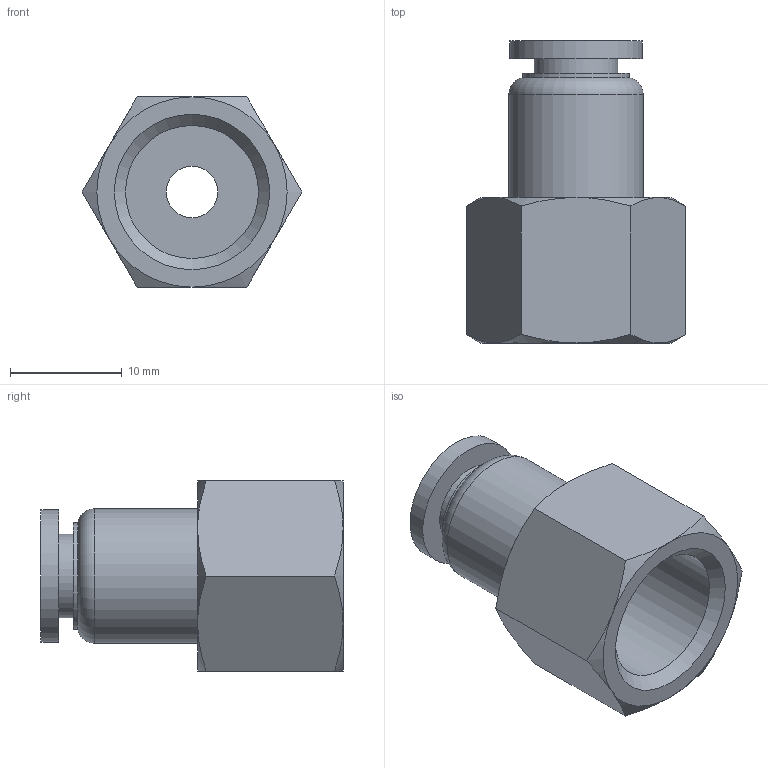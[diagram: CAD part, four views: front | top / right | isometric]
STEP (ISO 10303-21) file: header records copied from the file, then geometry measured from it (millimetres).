
FILE_DESCRIPTION(/* description */ (''),/* implementation_level */ '2;1');
FILE_NAME(/* name */ 'S:\_Tecnico\ArchivioUT\_Disegni3D ingombri\DISEGNI 3D per ingombri\RP\RP 52\RP521406.stp',/* time_stamp */ '2019-07-29T16:18:44+02:00',/* author */ ('ufficiotecnico3'),/* organization */ (''),/* preprocessor_version */ 'ST-DEVELOPER v18',/* originating_system */ 'Autodesk Inventor 2020',/* authorisation */ '');
FILE_SCHEMA (('AUTOMOTIVE_DESIGN { 1 0 10303 214 3 1 1 }'));
Length unit declared in the file: millimetre
Products named in the file (1): RP521406
Bounding box: 19.63 x 27 x 17 mm (x, y, z)
Volume: 3017.8 mm3; surface area: 2505 mm2
Topology: 1 solids, 1 shells, 35 faces, 80 edges, 52 vertices
Faces by surface type: cone 14, plane 13, cylinder 7, torus 1
Full cylindrical faces by diameter (mm): 4.6 x1, 6 x1, 7.5 x1, 9.5 x1, 11.8 x1, 11.89 x1, 12 x1
Entity records: 1024 total; most frequent: CARTESIAN_POINT 216, DIRECTION 169, ORIENTED_EDGE 160, EDGE_CURVE 80, AXIS2_PLACEMENT_3D 77, VERTEX_POINT 52, EDGE_LOOP 42, CIRCLE 41
